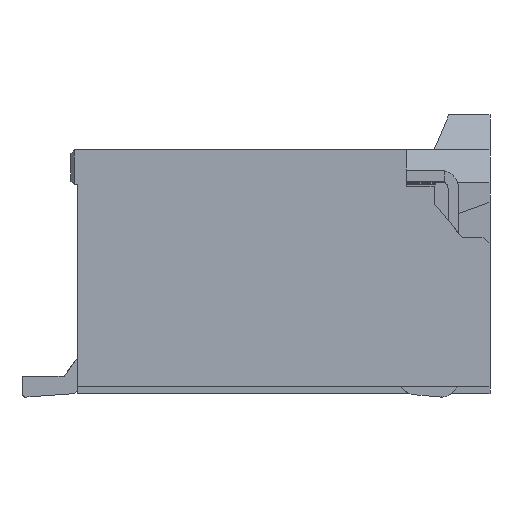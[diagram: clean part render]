
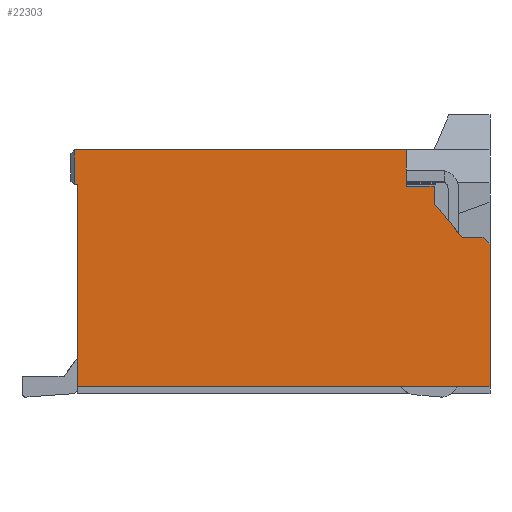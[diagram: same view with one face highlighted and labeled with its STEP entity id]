
A CAD part, front view. The second image highlights one B-rep face of the part: STEP entity #22303.
In plain terms, the highlighted planar face has unit normal (0, -1, 0).
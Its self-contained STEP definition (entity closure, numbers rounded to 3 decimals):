
#152 = CARTESIAN_POINT ( 'NONE',  ( 2.15, -10.2, 3.54 ) ) ;
#841 = AXIS2_PLACEMENT_3D ( 'NONE', #26680, #15347, #2707 ) ;
#1021 = EDGE_CURVE ( 'NONE', #4022, #18972, #15296, .T. ) ;
#1693 = VERTEX_POINT ( 'NONE', #1703 ) ;
#1703 = CARTESIAN_POINT ( 'NONE',  ( 2.95, -10.2, 2.29 ) ) ;
#2333 = VERTEX_POINT ( 'NONE', #31599 ) ;
#2541 = FACE_OUTER_BOUND ( 'NONE', #23953, .T. ) ;
#2707 = DIRECTION ( 'NONE',  ( 1., 0., 0. ) ) ;
#2791 = VERTEX_POINT ( 'NONE', #18638 ) ;
#3973 = EDGE_CURVE ( 'NONE', #5948, #2791, #34549, .T. ) ;
#4022 = VERTEX_POINT ( 'NONE', #5709 ) ;
#4066 = DIRECTION ( 'NONE',  ( -1., 0., 0. ) ) ;
#4183 = EDGE_CURVE ( 'NONE', #7126, #15527, #28358, .T. ) ;
#4347 = ORIENTED_EDGE ( 'NONE', *, *, #13449, .T. ) ;
#4407 = CARTESIAN_POINT ( 'NONE',  ( 3.1, -10.2, 2.29 ) ) ;
#4475 = EDGE_CURVE ( 'NONE', #28850, #2333, #6928, .T. ) ;
#4480 = LINE ( 'NONE', #28961, #11645 ) ;
#4857 = DIRECTION ( 'NONE',  ( 0., 0., 1. ) ) ;
#5566 = ORIENTED_EDGE ( 'NONE', *, *, #3973, .F. ) ;
#5709 = CARTESIAN_POINT ( 'NONE',  ( 3.35, -10.2, 0.15 ) ) ;
#5948 = VERTEX_POINT ( 'NONE', #8737 ) ;
#6754 = DIRECTION ( 'NONE',  ( 0., 0., 1. ) ) ;
#6928 = LINE ( 'NONE', #28956, #21924 ) ;
#6976 = VECTOR ( 'NONE', #14635, 1000. ) ;
#7126 = VERTEX_POINT ( 'NONE', #15752 ) ;
#8737 = CARTESIAN_POINT ( 'NONE',  ( -2.55, -10.2, 0.15 ) ) ;
#9212 = CARTESIAN_POINT ( 'NONE',  ( 3.3, -10.2, 2.24 ) ) ;
#9409 = CARTESIAN_POINT ( 'NONE',  ( 2.55, -10.2, 2.895 ) ) ;
#9480 = EDGE_CURVE ( 'NONE', #18972, #10866, #20420, .T. ) ;
#9707 = CARTESIAN_POINT ( 'NONE',  ( 3.35, -10.2, 1.17 ) ) ;
#10516 = CARTESIAN_POINT ( 'NONE',  ( -2.6, -10.2, 3.29 ) ) ;
#10738 = DIRECTION ( 'NONE',  ( 1., 0., 0. ) ) ;
#10860 = LINE ( 'NONE', #10516, #16434 ) ;
#10866 = VERTEX_POINT ( 'NONE', #27911 ) ;
#10894 = DIRECTION ( 'NONE',  ( -0.64, 0., 0.768 ) ) ;
#11645 = VECTOR ( 'NONE', #25988, 1000. ) ;
#11953 = LINE ( 'NONE', #4407, #32931 ) ;
#12233 = ORIENTED_EDGE ( 'NONE', *, *, #1021, .T. ) ;
#12509 = ORIENTED_EDGE ( 'NONE', *, *, #22857, .T. ) ;
#12621 = CARTESIAN_POINT ( 'NONE',  ( -2.6, -10.2, 3.04 ) ) ;
#13449 = EDGE_CURVE ( 'NONE', #25368, #2333, #25639, .T. ) ;
#14635 = DIRECTION ( 'NONE',  ( -0.707, 0., 0.707 ) ) ;
#15080 = DIRECTION ( 'NONE',  ( 1., 0., 0. ) ) ;
#15296 = LINE ( 'NONE', #9707, #23177 ) ;
#15347 = DIRECTION ( 'NONE',  ( 0., 1., 0. ) ) ;
#15527 = VERTEX_POINT ( 'NONE', #152 ) ;
#15752 = CARTESIAN_POINT ( 'NONE',  ( -2.6, -10.2, 3.54 ) ) ;
#16278 = DIRECTION ( 'NONE',  ( 0., 0., 1. ) ) ;
#16434 = VECTOR ( 'NONE', #21208, 1000. ) ;
#17799 = EDGE_CURVE ( 'NONE', #28850, #15527, #32338, .T. ) ;
#17829 = CARTESIAN_POINT ( 'NONE',  ( 2.55, -10.2, 2.77 ) ) ;
#18251 = VECTOR ( 'NONE', #10738, 1000. ) ;
#18489 = EDGE_CURVE ( 'NONE', #1693, #25368, #30107, .T. ) ;
#18638 = CARTESIAN_POINT ( 'NONE',  ( -2.55, -10.2, 3.04 ) ) ;
#18972 = VERTEX_POINT ( 'NONE', #25522 ) ;
#20408 = EDGE_CURVE ( 'NONE', #7126, #33375, #10860, .T. ) ;
#20420 = LINE ( 'NONE', #9212, #6976 ) ;
#20565 = DIRECTION ( 'NONE',  ( 0., 0., 1. ) ) ;
#21088 = VECTOR ( 'NONE', #6754, 1000. ) ;
#21208 = DIRECTION ( 'NONE',  ( 0., 0., -1. ) ) ;
#21325 = CARTESIAN_POINT ( 'NONE',  ( -2.55, -10.2, 1.595 ) ) ;
#21758 = CARTESIAN_POINT ( 'NONE',  ( 2.75, -10.2, 2.53 ) ) ;
#21825 = ORIENTED_EDGE ( 'NONE', *, *, #4183, .F. ) ;
#21900 = ORIENTED_EDGE ( 'NONE', *, *, #9480, .T. ) ;
#21903 = ORIENTED_EDGE ( 'NONE', *, *, #18489, .T. ) ;
#21924 = VECTOR ( 'NONE', #23715, 1000. ) ;
#22303 = ADVANCED_FACE ( 'NONE', ( #2541 ), #28803, .F. ) ;
#22681 = CARTESIAN_POINT ( 'NONE',  ( 2.15, -10.2, 3.02 ) ) ;
#22857 = EDGE_CURVE ( 'NONE', #33375, #2791, #32580, .T. ) ;
#23177 = VECTOR ( 'NONE', #20565, 1000. ) ;
#23570 = ORIENTED_EDGE ( 'NONE', *, *, #28187, .T. ) ;
#23599 = ORIENTED_EDGE ( 'NONE', *, *, #20408, .T. ) ;
#23685 = ORIENTED_EDGE ( 'NONE', *, *, #17799, .T. ) ;
#23715 = DIRECTION ( 'NONE',  ( 1., 0., 0. ) ) ;
#23953 = EDGE_LOOP ( 'NONE', ( #12509, #5566, #24579, #12233, #21900, #23570, #21903, #4347, #25793, #23685, #21825, #23599 ) ) ;
#24579 = ORIENTED_EDGE ( 'NONE', *, *, #26820, .F. ) ;
#25368 = VERTEX_POINT ( 'NONE', #17829 ) ;
#25522 = CARTESIAN_POINT ( 'NONE',  ( 3.35, -10.2, 2.19 ) ) ;
#25563 = CARTESIAN_POINT ( 'NONE',  ( -0.225, -10.2, 3.54 ) ) ;
#25639 = LINE ( 'NONE', #9409, #21088 ) ;
#25793 = ORIENTED_EDGE ( 'NONE', *, *, #4475, .F. ) ;
#25988 = DIRECTION ( 'NONE',  ( -1., 0., 0. ) ) ;
#26680 = CARTESIAN_POINT ( 'NONE',  ( 0., -10.2, 0. ) ) ;
#26820 = EDGE_CURVE ( 'NONE', #4022, #5948, #4480, .T. ) ;
#27911 = CARTESIAN_POINT ( 'NONE',  ( 3.25, -10.2, 2.29 ) ) ;
#28187 = EDGE_CURVE ( 'NONE', #10866, #1693, #11953, .T. ) ;
#28358 = LINE ( 'NONE', #25563, #29685 ) ;
#28803 = PLANE ( 'NONE',  #841 ) ;
#28850 = VERTEX_POINT ( 'NONE', #22681 ) ;
#28956 = CARTESIAN_POINT ( 'NONE',  ( 2.35, -10.2, 3.02 ) ) ;
#28961 = CARTESIAN_POINT ( 'NONE',  ( 0.4, -10.2, 0.15 ) ) ;
#29546 = CARTESIAN_POINT ( 'NONE',  ( 2.15, -10.2, 0. ) ) ;
#29685 = VECTOR ( 'NONE', #15080, 1000. ) ;
#30107 = LINE ( 'NONE', #21758, #31930 ) ;
#31599 = CARTESIAN_POINT ( 'NONE',  ( 2.55, -10.2, 3.02 ) ) ;
#31930 = VECTOR ( 'NONE', #10894, 1000. ) ;
#32233 = CARTESIAN_POINT ( 'NONE',  ( -2.575, -10.2, 3.04 ) ) ;
#32338 = LINE ( 'NONE', #29546, #32463 ) ;
#32463 = VECTOR ( 'NONE', #16278, 1000. ) ;
#32580 = LINE ( 'NONE', #32233, #18251 ) ;
#32931 = VECTOR ( 'NONE', #4066, 1000. ) ;
#33375 = VERTEX_POINT ( 'NONE', #12621 ) ;
#34134 = VECTOR ( 'NONE', #4857, 1000. ) ;
#34549 = LINE ( 'NONE', #21325, #34134 ) ;
